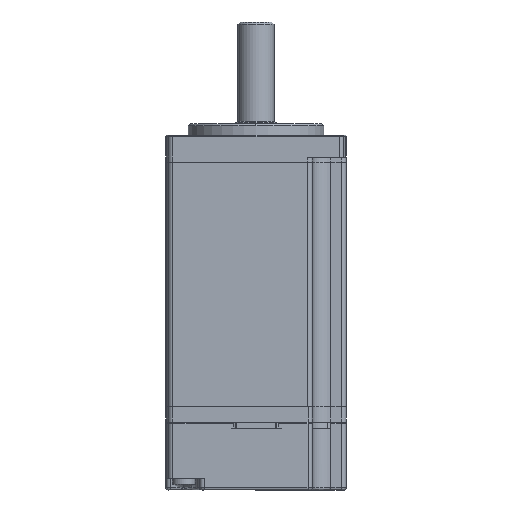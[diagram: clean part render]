
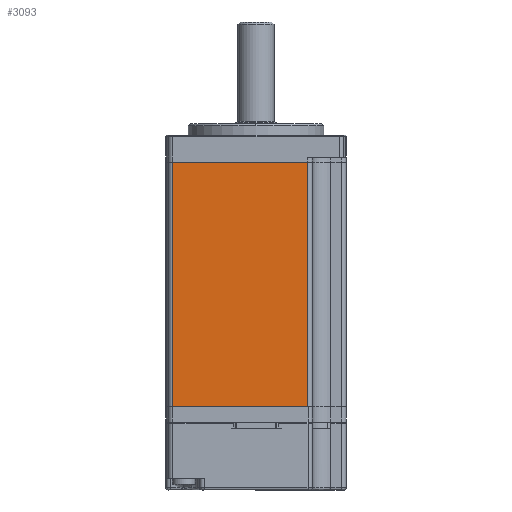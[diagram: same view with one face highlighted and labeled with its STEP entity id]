
A CAD part, front view. The second image highlights one B-rep face of the part: STEP entity #3093.
In plain terms, the highlighted planar face has unit normal (0, 1, 0).
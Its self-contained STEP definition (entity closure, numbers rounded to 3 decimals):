
#106 = ORIENTED_EDGE ( 'NONE', *, *, #7789, .T. ) ;
#422 = VERTEX_POINT ( 'NONE', #15476 ) ;
#1133 = DIRECTION ( 'NONE',  ( 0., 0., -1. ) ) ;
#1360 = CARTESIAN_POINT ( 'NONE',  ( 11.5, -20., 54. ) ) ;
#1661 = FACE_OUTER_BOUND ( 'NONE', #1949, .T. ) ;
#1949 = EDGE_LOOP ( 'NONE', ( #13335, #106, #13988, #2146 ) ) ;
#2146 = ORIENTED_EDGE ( 'NONE', *, *, #6110, .T. ) ;
#2384 = PLANE ( 'NONE',  #18109 ) ;
#3093 = ADVANCED_FACE ( 'NONE', ( #1661 ), #2384, .T. ) ;
#3536 = CARTESIAN_POINT ( 'NONE',  ( -18.397, -20., 0. ) ) ;
#3574 = EDGE_CURVE ( 'NONE', #17660, #422, #9393, .T. ) ;
#4168 = DIRECTION ( 'NONE',  ( 0., 1., 0. ) ) ;
#4183 = CARTESIAN_POINT ( 'NONE',  ( 20., -20., 0. ) ) ;
#4850 = VECTOR ( 'NONE', #15693, 1000. ) ;
#4952 = LINE ( 'NONE', #4183, #16579 ) ;
#5469 = LINE ( 'NONE', #8901, #12396 ) ;
#6110 = EDGE_CURVE ( 'NONE', #422, #18910, #4952, .T. ) ;
#6539 = CARTESIAN_POINT ( 'NONE',  ( 11.5, -20., 54. ) ) ;
#7177 = DIRECTION ( 'NONE',  ( 1., 0., 0. ) ) ;
#7789 = EDGE_CURVE ( 'NONE', #18164, #17660, #5469, .T. ) ;
#8901 = CARTESIAN_POINT ( 'NONE',  ( 20., -20., 54. ) ) ;
#9393 = LINE ( 'NONE', #1360, #10504 ) ;
#10205 = EDGE_CURVE ( 'NONE', #18910, #18164, #20073, .T. ) ;
#10504 = VECTOR ( 'NONE', #1133, 1000. ) ;
#12396 = VECTOR ( 'NONE', #7177, 1000. ) ;
#13335 = ORIENTED_EDGE ( 'NONE', *, *, #10205, .T. ) ;
#13956 = CARTESIAN_POINT ( 'NONE',  ( -18.397, -20., 54. ) ) ;
#13988 = ORIENTED_EDGE ( 'NONE', *, *, #3574, .T. ) ;
#14761 = CARTESIAN_POINT ( 'NONE',  ( 20., -20., 54. ) ) ;
#15476 = CARTESIAN_POINT ( 'NONE',  ( 11.5, -20., 0. ) ) ;
#15693 = DIRECTION ( 'NONE',  ( 0., 0., 1. ) ) ;
#16531 = DIRECTION ( 'NONE',  ( 0., 0., 1. ) ) ;
#16579 = VECTOR ( 'NONE', #22192, 1000. ) ;
#17409 = CARTESIAN_POINT ( 'NONE',  ( -18.397, -20., 54. ) ) ;
#17660 = VERTEX_POINT ( 'NONE', #6539 ) ;
#18109 = AXIS2_PLACEMENT_3D ( 'NONE', #14761, #4168, #16531 ) ;
#18164 = VERTEX_POINT ( 'NONE', #13956 ) ;
#18910 = VERTEX_POINT ( 'NONE', #3536 ) ;
#20073 = LINE ( 'NONE', #17409, #4850 ) ;
#22192 = DIRECTION ( 'NONE',  ( -1., 0., 0. ) ) ;
